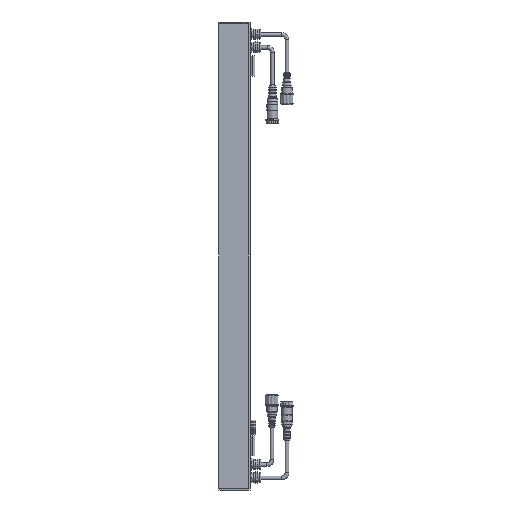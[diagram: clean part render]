
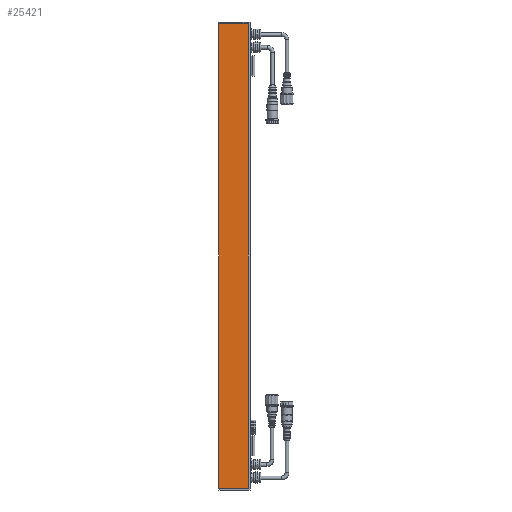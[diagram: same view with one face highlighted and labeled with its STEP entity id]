
A CAD part, left-side view. The second image highlights one B-rep face of the part: STEP entity #25421.
In plain terms, the highlighted planar face has unit normal (-1, 0, 0).
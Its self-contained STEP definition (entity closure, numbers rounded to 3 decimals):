
#303=LINE('',#50233,#2097);
#355=LINE('',#50357,#2149);
#356=LINE('',#50361,#2150);
#357=LINE('',#50362,#2151);
#2097=VECTOR('',#42125,1000.);
#2149=VECTOR('',#42217,1000.);
#2150=VECTOR('',#42222,1000.);
#2151=VECTOR('',#42223,1000.);
#5853=ORIENTED_EDGE('',*,*,#12834,.T.);
#5854=ORIENTED_EDGE('',*,*,#12770,.F.);
#5855=ORIENTED_EDGE('',*,*,#12835,.F.);
#5856=ORIENTED_EDGE('',*,*,#12832,.T.);
#12770=EDGE_CURVE('',#16382,#16379,#303,.T.);
#12832=EDGE_CURVE('',#16435,#16434,#355,.T.);
#12834=EDGE_CURVE('',#16434,#16379,#356,.T.);
#12835=EDGE_CURVE('',#16435,#16382,#357,.T.);
#16379=VERTEX_POINT('',#50227);
#16382=VERTEX_POINT('',#50232);
#16434=VERTEX_POINT('',#50356);
#16435=VERTEX_POINT('',#50358);
#20415=EDGE_LOOP('',(#5853,#5854,#5855,#5856));
#22585=FACE_BOUND('',#20415,.T.);
#24460=PLANE('',#38414);
#25421=ADVANCED_FACE('',(#22585),#24460,.F.);
#38414=AXIS2_PLACEMENT_3D('',#50360,#42220,#42221);
#42125=DIRECTION('',(0.,0.,1.));
#42217=DIRECTION('',(0.,0.,1.));
#42220=DIRECTION('',(1.,0.,0.));
#42221=DIRECTION('',(0.,-1.,0.));
#42222=DIRECTION('',(0.,1.,0.));
#42223=DIRECTION('',(0.,1.,0.));
#50227=CARTESIAN_POINT('',(-12.,73.99,-578.85));
#50232=CARTESIAN_POINT('',(-12.,73.99,-1150.55));
#50233=CARTESIAN_POINT('',(-12.,73.99,-1150.55));
#50356=CARTESIAN_POINT('',(-12.,38.086,-578.85));
#50357=CARTESIAN_POINT('',(-12.,38.086,-1150.55));
#50358=CARTESIAN_POINT('',(-12.,38.086,-1150.55));
#50360=CARTESIAN_POINT('',(-12.,38.086,-1150.55));
#50361=CARTESIAN_POINT('',(-12.,38.086,-578.85));
#50362=CARTESIAN_POINT('',(-12.,38.086,-1150.55));
